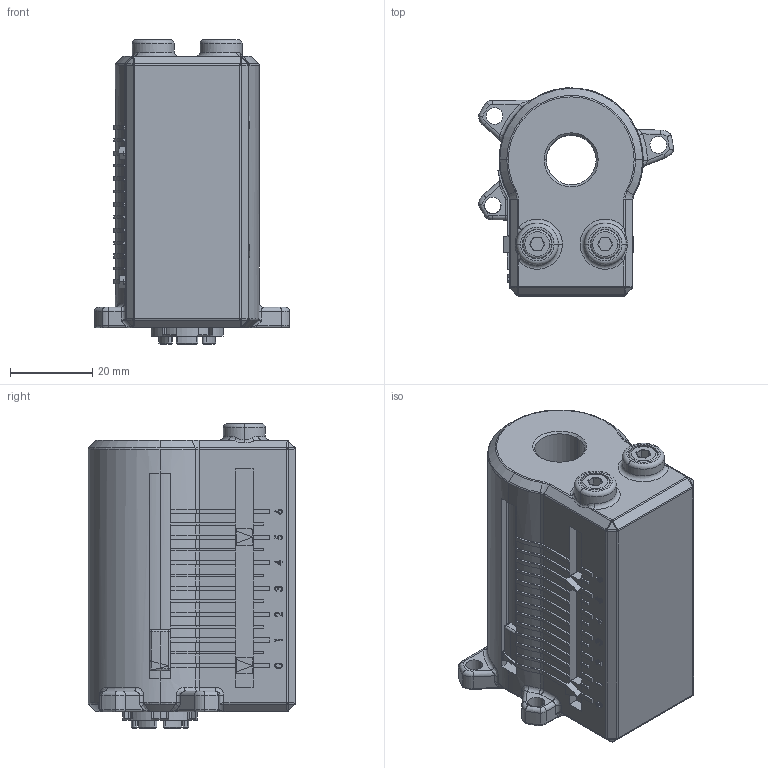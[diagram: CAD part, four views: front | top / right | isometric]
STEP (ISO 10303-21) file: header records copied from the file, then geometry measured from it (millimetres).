
FILE_DESCRIPTION (( 'STEP AP203' ), '1' );
FILE_NAME ('TES2.STEP', '2012-08-23T09:34:23', ( 'Jeremy' ), ( '' ), 'SwSTEP 2.0', 'SolidWorks 2010', '' );
FILE_SCHEMA (( 'CONFIG_CONTROL_DESIGN' ));
Length unit declared in the file: millimetre
Products named in the file (1): TES2
Bounding box: 47.43 x 50.45 x 74 mm (x, y, z)
Volume: 89865.4 mm3; surface area: 19224.8 mm2
Topology: 1 solids, 2 shells, 816 faces, 2083 edges, 1289 vertices
Faces by surface type: plane 327, cylinder 257, bspline 87, torus 60, cone 58, sphere 27
Entity records: 34738 total; most frequent: CARTESIAN_POINT 15254, ORIENTED_EDGE 4148, DIRECTION 3982, EDGE_CURVE 2074, AXIS2_PLACEMENT_3D 1419, VERTEX_POINT 1289, LINE 1144, VECTOR 1144
